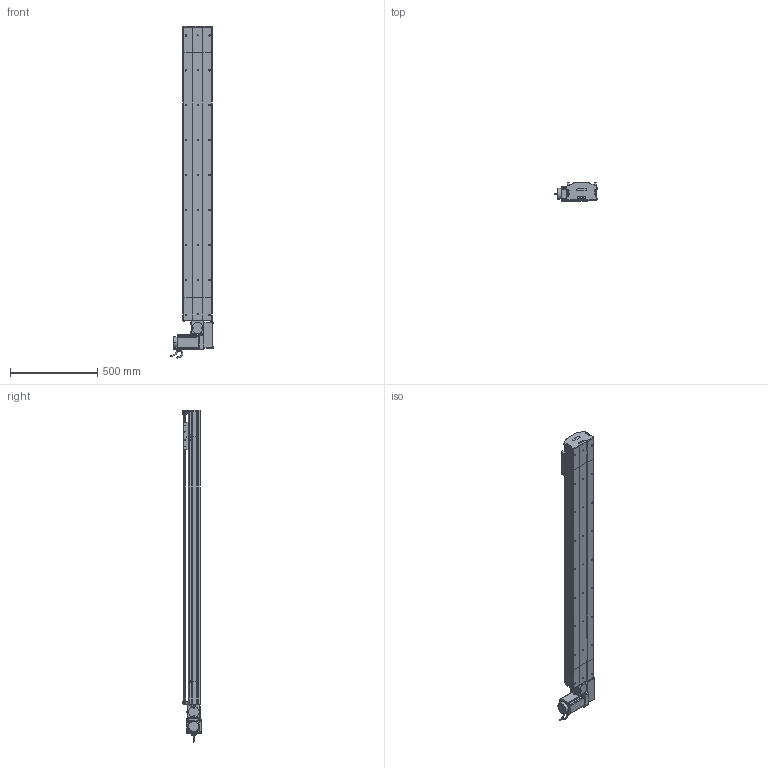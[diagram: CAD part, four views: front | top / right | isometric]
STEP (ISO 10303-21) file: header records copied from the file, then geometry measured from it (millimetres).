
FILE_DESCRIPTION (( 'STEP AP214' ), '1' );
FILE_NAME ('D17 TBH LH S1400.STEP', '2010-06-30T08:01:19', ( 'Christophe Gaillard' ), ( 'SGA' ), 'SwSTEP 2.0', 'SolidWorks 2010', '' );
FILE_SCHEMA (( 'AUTOMOTIVE_DESIGN' ));
Length unit declared in the file: millimetre
Products named in the file (40): corp D17B 1400_Default; Plaque racord D17_Default; vis M5 L70_Default; Conecteur_Default; Vis M5 L16-2_Default; vis M5 L16_Default; couvercle D17B course L1400_Default; Conecteur2_Default; Head LH D17B_Default; codeur 90BLDC125-640; corpl head D17 _Default; Moteur motionking 90BLDC125A-640; plaque de  bout head D17B LH_Default; couvercle D17B head_Default; corps 90BLDC125A-640; avant 90BLDC125A-640; Arbre+rail head D17B; Tail D17B_Default; Renvoi LH_Default; couroie head D17_Default; cache arbre D17_Default; cache D17_Default; poulie head_Default; vis M5 L5_Default; vis M5 L12_Default; guide D17; Chariot D17; couvercle D17B_Default; Couroie tail D17B_Default; poulie tail_Default; chariot D17S_Default; vis M5 L25_Default; vis M5 L8 90°_Default; plaque de  bout tail D17B_Default; Rail D17B; tete d''axe poulie D17B; corpl tail D17B_Default; Couroie+ rail D17 Course 1400 ; course 1400 D17B_Default; D17 TBH LH S1400
Assembly tree (70 placements, depth 4):
  D17 TBH LH S1400
    chariot D17S_Default
      Chariot D17
      vis M5 L12_Default  x4
      guide D17  x2
    course 1400 D17B_Default
      couvercle D17B course L1400_Default
      Couroie+ rail D17 Course 1400 
      corp D17B 1400_Default
    Tail D17B_Default
      Couroie tail D17B_Default
      vis M5 L12_Default  x4
      Rail D17B
      vis M5 L8 90°_Default  x2
      poulie tail_Default
      vis M5 L25_Default  x2
      tete d''axe poulie D17B
      corpl tail D17B_Default
      couvercle D17B_Default
      plaque de  bout tail D17B_Default
    Head LH D17B_Default
      cache D17_Default  x2
      vis M5 L16_Default  x2
      vis M5 L5_Default  x4
      vis M5 L25_Default  x2
      Moteur motionking 90BLDC125A-640
        Conecteur_Default
        corps 90BLDC125A-640
        Conecteur2_Default
        codeur 90BLDC125-640
        avant 90BLDC125A-640
      plaque de  bout head D17B LH_Default
      vis M5 L70_Default  x4
      vis M5 L12_Default  x8
      couvercle D17B head_Default
      couroie head D17_Default
      cache arbre D17_Default
      Vis M5 L16-2_Default  x4
      Plaque racord D17_Default
      poulie head_Default
      Arbre+rail head D17B
      corpl head D17 _Default
      Renvoi LH_Default
Bounding box: 245.2 x 105.65 x 1900.95 mm (x, y, z)
Volume: 11184693 mm3; surface area: 3162224.6 mm2
Topology: 94 solids, 94 shells, 2677 faces, 6733 edges, 4334 vertices
Faces by surface type: plane 1607, cylinder 757, bspline 136, cone 88, torus 85, sphere 4
Entity records: 83760 total; most frequent: CARTESIAN_POINT 24801, ORIENTED_EDGE 10238, DIRECTION 9724, EDGE_CURVE 5119, VECTOR 3422, LINE 3422, VERTEX_POINT 3358, AXIS2_PLACEMENT_3D 3151
